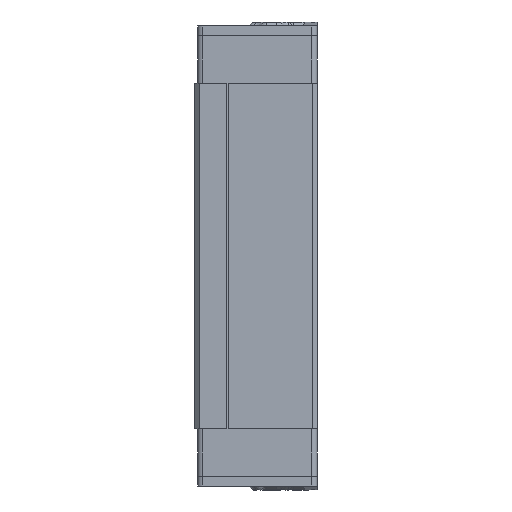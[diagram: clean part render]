
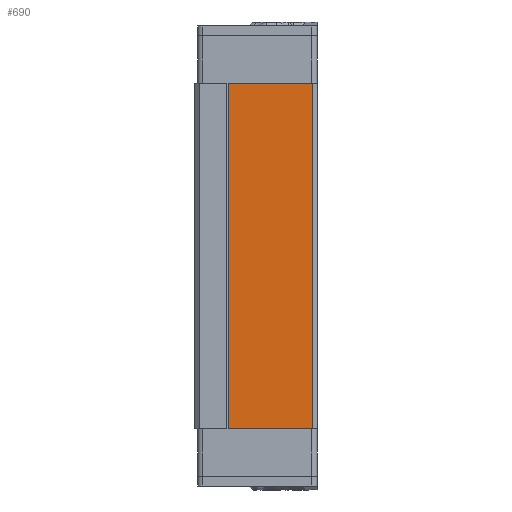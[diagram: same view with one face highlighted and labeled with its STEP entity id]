
A CAD part, left-side view. The second image highlights one B-rep face of the part: STEP entity #690.
In plain terms, the highlighted planar face has unit normal (-1, 0, 0).
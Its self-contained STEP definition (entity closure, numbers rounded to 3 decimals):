
#445 = PLANE('',#446);
#446 = AXIS2_PLACEMENT_3D('',#447,#448,#449);
#447 = CARTESIAN_POINT('',(0.092,0.153,0.));
#448 = DIRECTION('',(0.,0.,1.));
#449 = DIRECTION('',(1.,0.,-0.));
#501 = PLANE('',#502);
#502 = AXIS2_PLACEMENT_3D('',#503,#504,#505);
#503 = CARTESIAN_POINT('',(0.092,0.153,129.8));
#504 = DIRECTION('',(0.,0.,1.));
#505 = DIRECTION('',(1.,0.,-0.));
#603 = PLANE('',#604);
#604 = AXIS2_PLACEMENT_3D('',#605,#606,#607);
#605 = CARTESIAN_POINT('',(-42.5,-22.4,0.));
#606 = DIRECTION('',(-0.707,-0.707,0.));
#607 = DIRECTION('',(0.707,-0.707,0.));
#619 = VERTEX_POINT('',#620);
#620 = CARTESIAN_POINT('',(-42.5,-22.4,0.));
#643 = VERTEX_POINT('',#644);
#644 = CARTESIAN_POINT('',(-42.5,-22.4,129.8));
#665 = EDGE_CURVE('',#619,#643,#666,.T.);
#666 = SURFACE_CURVE('',#667,(#671,#678),.PCURVE_S1.);
#667 = LINE('',#668,#669);
#668 = CARTESIAN_POINT('',(-42.5,-22.4,0.));
#669 = VECTOR('',#670,1.);
#670 = DIRECTION('',(0.,0.,1.));
#671 = PCURVE('',#603,#672);
#672 = DEFINITIONAL_REPRESENTATION('',(#673),#677);
#673 = LINE('',#674,#675);
#674 = CARTESIAN_POINT('',(0.,0.));
#675 = VECTOR('',#676,1.);
#676 = DIRECTION('',(0.,1.));
#677 = ( GEOMETRIC_REPRESENTATION_CONTEXT(2) 
PARAMETRIC_REPRESENTATION_CONTEXT() REPRESENTATION_CONTEXT('2D SPACE',''
  ) );
#678 = PCURVE('',#679,#684);
#679 = PLANE('',#680);
#680 = AXIS2_PLACEMENT_3D('',#681,#682,#683);
#681 = CARTESIAN_POINT('',(-42.5,9.5,0.));
#682 = DIRECTION('',(-1.,0.,0.));
#683 = DIRECTION('',(0.,-1.,0.));
#684 = DEFINITIONAL_REPRESENTATION('',(#685),#689);
#685 = LINE('',#686,#687);
#686 = CARTESIAN_POINT('',(31.9,0.));
#687 = VECTOR('',#688,1.);
#688 = DIRECTION('',(0.,1.));
#689 = ( GEOMETRIC_REPRESENTATION_CONTEXT(2) 
PARAMETRIC_REPRESENTATION_CONTEXT() REPRESENTATION_CONTEXT('2D SPACE',''
  ) );
#690 = ADVANCED_FACE('',(#691),#679,.T.);
#691 = FACE_BOUND('',#692,.T.);
#692 = EDGE_LOOP('',(#693,#716,#717,#740));
#693 = ORIENTED_EDGE('',*,*,#694,.T.);
#694 = EDGE_CURVE('',#695,#619,#697,.T.);
#695 = VERTEX_POINT('',#696);
#696 = CARTESIAN_POINT('',(-42.5,9.5,0.));
#697 = SURFACE_CURVE('',#698,(#702,#709),.PCURVE_S1.);
#698 = B_SPLINE_CURVE_WITH_KNOTS('',2,(#699,#700,#701),.UNSPECIFIED.,.F.
  ,.F.,(3,3),(33.046,34.046),
  .PIECEWISE_BEZIER_KNOTS.);
#699 = CARTESIAN_POINT('',(-42.5,9.5,0.));
#700 = CARTESIAN_POINT('',(-42.5,-6.45,0.));
#701 = CARTESIAN_POINT('',(-42.5,-22.4,0.));
#702 = PCURVE('',#679,#703);
#703 = DEFINITIONAL_REPRESENTATION('',(#704),#708);
#704 = B_SPLINE_CURVE_WITH_KNOTS('',2,(#705,#706,#707),.UNSPECIFIED.,.F.
  ,.F.,(3,3),(33.046,34.046),
  .PIECEWISE_BEZIER_KNOTS.);
#705 = CARTESIAN_POINT('',(0.,0.));
#706 = CARTESIAN_POINT('',(15.95,0.));
#707 = CARTESIAN_POINT('',(31.9,0.));
#708 = ( GEOMETRIC_REPRESENTATION_CONTEXT(2) 
PARAMETRIC_REPRESENTATION_CONTEXT() REPRESENTATION_CONTEXT('2D SPACE',''
  ) );
#709 = PCURVE('',#445,#710);
#710 = DEFINITIONAL_REPRESENTATION('',(#711),#715);
#711 = B_SPLINE_CURVE_WITH_KNOTS('',2,(#712,#713,#714),.UNSPECIFIED.,.F.
  ,.F.,(3,3),(33.046,34.046),
  .PIECEWISE_BEZIER_KNOTS.);
#712 = CARTESIAN_POINT('',(-42.592,9.347));
#713 = CARTESIAN_POINT('',(-42.592,-6.603));
#714 = CARTESIAN_POINT('',(-42.592,-22.553));
#715 = ( GEOMETRIC_REPRESENTATION_CONTEXT(2) 
PARAMETRIC_REPRESENTATION_CONTEXT() REPRESENTATION_CONTEXT('2D SPACE',''
  ) );
#716 = ORIENTED_EDGE('',*,*,#665,.T.);
#717 = ORIENTED_EDGE('',*,*,#718,.F.);
#718 = EDGE_CURVE('',#719,#643,#721,.T.);
#719 = VERTEX_POINT('',#720);
#720 = CARTESIAN_POINT('',(-42.5,9.5,129.8));
#721 = SURFACE_CURVE('',#722,(#726,#733),.PCURVE_S1.);
#722 = B_SPLINE_CURVE_WITH_KNOTS('',2,(#723,#724,#725),.UNSPECIFIED.,.F.
  ,.F.,(3,3),(33.046,34.046),
  .PIECEWISE_BEZIER_KNOTS.);
#723 = CARTESIAN_POINT('',(-42.5,9.5,129.8));
#724 = CARTESIAN_POINT('',(-42.5,-6.45,129.8));
#725 = CARTESIAN_POINT('',(-42.5,-22.4,129.8));
#726 = PCURVE('',#679,#727);
#727 = DEFINITIONAL_REPRESENTATION('',(#728),#732);
#728 = B_SPLINE_CURVE_WITH_KNOTS('',2,(#729,#730,#731),.UNSPECIFIED.,.F.
  ,.F.,(3,3),(33.046,34.046),
  .PIECEWISE_BEZIER_KNOTS.);
#729 = CARTESIAN_POINT('',(0.,129.8));
#730 = CARTESIAN_POINT('',(15.95,129.8));
#731 = CARTESIAN_POINT('',(31.9,129.8));
#732 = ( GEOMETRIC_REPRESENTATION_CONTEXT(2) 
PARAMETRIC_REPRESENTATION_CONTEXT() REPRESENTATION_CONTEXT('2D SPACE',''
  ) );
#733 = PCURVE('',#501,#734);
#734 = DEFINITIONAL_REPRESENTATION('',(#735),#739);
#735 = B_SPLINE_CURVE_WITH_KNOTS('',2,(#736,#737,#738),.UNSPECIFIED.,.F.
  ,.F.,(3,3),(33.046,34.046),
  .PIECEWISE_BEZIER_KNOTS.);
#736 = CARTESIAN_POINT('',(-42.592,9.347));
#737 = CARTESIAN_POINT('',(-42.592,-6.603));
#738 = CARTESIAN_POINT('',(-42.592,-22.553));
#739 = ( GEOMETRIC_REPRESENTATION_CONTEXT(2) 
PARAMETRIC_REPRESENTATION_CONTEXT() REPRESENTATION_CONTEXT('2D SPACE',''
  ) );
#740 = ORIENTED_EDGE('',*,*,#741,.F.);
#741 = EDGE_CURVE('',#695,#719,#742,.T.);
#742 = SURFACE_CURVE('',#743,(#747,#754),.PCURVE_S1.);
#743 = LINE('',#744,#745);
#744 = CARTESIAN_POINT('',(-42.5,9.5,0.));
#745 = VECTOR('',#746,1.);
#746 = DIRECTION('',(0.,0.,1.));
#747 = PCURVE('',#679,#748);
#748 = DEFINITIONAL_REPRESENTATION('',(#749),#753);
#749 = LINE('',#750,#751);
#750 = CARTESIAN_POINT('',(0.,0.));
#751 = VECTOR('',#752,1.);
#752 = DIRECTION('',(0.,1.));
#753 = ( GEOMETRIC_REPRESENTATION_CONTEXT(2) 
PARAMETRIC_REPRESENTATION_CONTEXT() REPRESENTATION_CONTEXT('2D SPACE',''
  ) );
#754 = PCURVE('',#755,#760);
#755 = PLANE('',#756);
#756 = AXIS2_PLACEMENT_3D('',#757,#758,#759);
#757 = CARTESIAN_POINT('',(-43.,10.,0.));
#758 = DIRECTION('',(-0.707,-0.707,0.));
#759 = DIRECTION('',(0.707,-0.707,0.));
#760 = DEFINITIONAL_REPRESENTATION('',(#761),#765);
#761 = LINE('',#762,#763);
#762 = CARTESIAN_POINT('',(0.707,0.));
#763 = VECTOR('',#764,1.);
#764 = DIRECTION('',(0.,1.));
#765 = ( GEOMETRIC_REPRESENTATION_CONTEXT(2) 
PARAMETRIC_REPRESENTATION_CONTEXT() REPRESENTATION_CONTEXT('2D SPACE',''
  ) );
